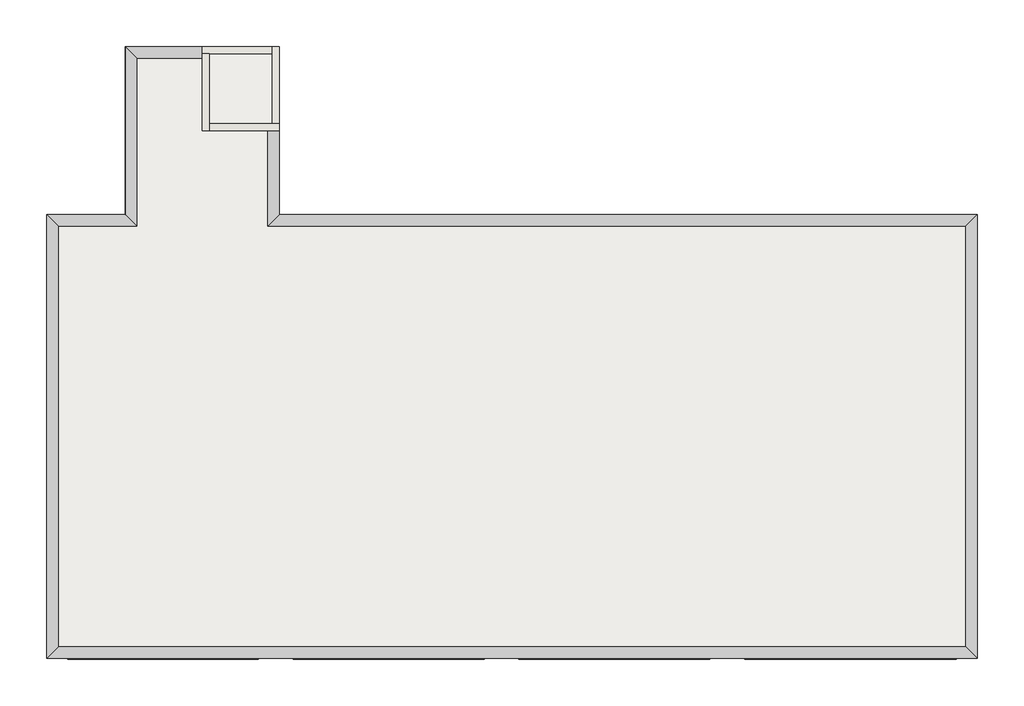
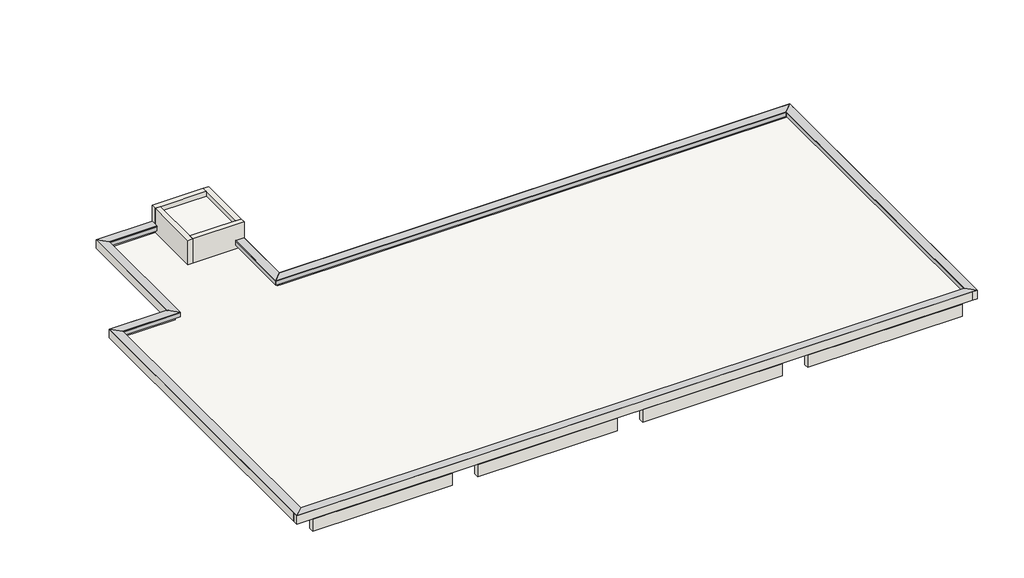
# One storey: 16 proxies, 16 walls, 2 slabs.
"""IFC4 building model written with IfcOpenShell, lengths in millimetres."""

import ifcopenshell
import ifcopenshell.guid

model = None  # the IFC model being written
_history = None  # IfcOwnerHistory: only IFC2X3 demands one
_inside = {}  # id of a spatial element -> (the spatial element, [elements in it])
_under = {}  # id of a project, library or spatial element -> (it, [spatial elements below it])
_declared = {}  # id of a project -> (the project, [libraries it declares])
_typed = {}  # id of a type object -> (the type object, [elements of that type])
_made_of = {}  # id of a material, layer set ... -> (it, [elements and type objects made of it])


def new_model(schema):
    """Start an empty IFC model of exactly this schema.

    Asked for "IFC4X3", IfcOpenShell would pick the latest addendum, in which some entities
    have other attributes; the version numbers below select the first issue.
    IFC2X3 requires an IfcOwnerHistory on every rooted entity: one is made here for all.
    """
    global model, _history
    if schema == "IFC4X3":
        model = ifcopenshell.file(schema_version=(4, 3, 0, 0))
    else:
        model = ifcopenshell.file(schema=schema)
    _inside.clear()
    _under.clear()
    _declared.clear()
    _typed.clear()
    _made_of.clear()
    _history = None
    if model.schema == "IFC2X3":
        org = make("IfcOrganization", Name="unknown")
        user = make(
            "IfcPersonAndOrganization",
            ThePerson=make("IfcPerson", FamilyName="unknown"),
            TheOrganization=org,
        )
        app = make(
            "IfcApplication",
            ApplicationDeveloper=org,
            Version="unknown",
            ApplicationFullName="unknown",
            ApplicationIdentifier="unknown",
        )
        _history = make(
            "IfcOwnerHistory",
            OwningUser=user,
            OwningApplication=app,
            ChangeAction="ADDED",
            CreationDate=0,
        )
    return model


def make(cls, **values):
    """One entity of the class cls with the attributes given. An attribute that is None is left unset."""
    return model.create_entity(
        cls, **{name: value for name, value in values.items() if value is not None}
    )


def rooted(cls, **values):
    """An entity with a GlobalId (a new one), such as an element, a storey or a relation."""
    return make(cls, GlobalId=ifcopenshell.guid.new(), OwnerHistory=_history, **values)


def si_unit(unit_type, name, prefix=None):
    """IfcSIUnit, for example si_unit("LENGTHUNIT", "METRE", prefix="MILLI")."""
    return make("IfcSIUnit", UnitType=unit_type, Prefix=prefix, Name=name)


def assignment(units):
    """IfcUnitAssignment: the units of a project."""
    return None if units is None else make("IfcUnitAssignment", Units=units)


def point(xyz):
    """IfcCartesianPoint."""
    return None if xyz is None else make("IfcCartesianPoint", Coordinates=xyz)


def direction(xyz):
    """IfcDirection."""
    return None if xyz is None else make("IfcDirection", DirectionRatios=xyz)


def frame(location, z_axis=None, x_axis=None):
    """IfcAxis2Placement3D, a coordinate frame: its origin and axes. An axis left out is left unset."""
    return make(
        "IfcAxis2Placement3D",
        Location=point(location),
        Axis=direction(z_axis),
        RefDirection=direction(x_axis),
    )


def origin():
    """The frame at (0, 0, 0) with its axes left unset."""
    return frame((0.0, 0.0, 0.0))


def place(relative_to, where):
    """IfcLocalPlacement: puts the frame where relative to a parent placement (None: the world)."""
    return make(
        "IfcLocalPlacement", PlacementRelTo=relative_to, RelativePlacement=where
    )


def context(
    kind, dimensions, precision=None, world=None, true_north=None, identifier=None
):
    """IfcGeometricRepresentationContext, for example the 3D "Model" context."""
    return make(
        "IfcGeometricRepresentationContext",
        ContextIdentifier=identifier,
        ContextType=kind,
        CoordinateSpaceDimension=dimensions,
        Precision=precision,
        WorldCoordinateSystem=world,
        TrueNorth=true_north,
    )


def project(units=None, contexts=None):
    """IfcProject with its units and contexts."""
    return rooted(
        "IfcProject",
        Name="project",
        RepresentationContexts=contexts,
        UnitsInContext=assignment(units),
    )


def spatial(cls, under=None, at=None, **own):
    """A site, building, storey or space (cls), placed at a placement, below another one or the project."""
    s = rooted(cls, ObjectPlacement=at, **own)
    if under is not None:
        _under.setdefault(under.id(), (under, []))[1].append(s)
    return s


def polyline(points):
    """IfcPolyline through the points."""
    return make("IfcPolyline", Points=[point(p) for p in points])


def outline(outer, holes=None, kind="AREA"):
    """IfcArbitraryClosedProfileDef: a profile drawn as a closed curve; with holes, ...WithVoids."""
    if holes is None:
        return make("IfcArbitraryClosedProfileDef", ProfileType=kind, OuterCurve=outer)
    return make(
        "IfcArbitraryProfileDefWithVoids",
        ProfileType=kind,
        OuterCurve=outer,
        InnerCurves=holes,
    )


def extrude(swept, where, along, depth):
    """IfcExtrudedAreaSolid: the profile swept, set in the frame where, extruded along a direction by depth."""
    return make(
        "IfcExtrudedAreaSolid",
        SweptArea=swept,
        Position=where,
        ExtrudedDirection=direction(along),
        Depth=depth,
    )


def faces_of(points, faces, orient=None, outer=None):
    """IfcFace entities. A face is a list of loops; a loop is a list of indices into points, from 0.

    orient and outer hold one flag for each loop. By default every Orientation is true, the
    first loop of a face is its IfcFaceOuterBound and the others are IfcFaceBound.
    """
    made = []
    for i, loops in enumerate(faces):
        bounds = []
        for j, loop in enumerate(loops):
            is_outer = j == 0 if outer is None else outer[i][j]
            bounds.append(
                make(
                    "IfcFaceOuterBound" if is_outer else "IfcFaceBound",
                    Bound=make("IfcPolyLoop", Polygon=[points[k] for k in loop]),
                    Orientation=True if orient is None else orient[i][j],
                )
            )
        made.append(make("IfcFace", Bounds=bounds))
    return made


def faceted_brep(points, faces, orient=None, outer=None, voids=None):
    """IfcFacetedBrep: a solid bounded by flat faces; with voids (closed shells), ...WithVoids."""
    shared = [point(p) for p in points]
    hull = make("IfcClosedShell", CfsFaces=faces_of(shared, faces, orient, outer))
    if voids is None:
        return make("IfcFacetedBrep", Outer=hull)
    return make(
        "IfcFacetedBrepWithVoids",
        Outer=hull,
        Voids=[
            make(cls, CfsFaces=faces_of(shared, fs, o, b)) for cls, fs, o, b in voids
        ],
    )


def shape(context_of_items, identifier, shape_type, items):
    """IfcShapeRepresentation: the items that make up one representation, for example the "Body"."""
    return make(
        "IfcShapeRepresentation",
        ContextOfItems=context_of_items,
        RepresentationIdentifier=identifier,
        RepresentationType=shape_type,
        Items=items,
    )


def made_of(thing, what):
    """Note that an element or type object is made of a material, layer set ...; save() writes the relation."""
    if what is not None:
        _made_of.setdefault(what.id(), (what, []))[1].append(thing)
    return thing


def element(
    cls,
    number,
    at=None,
    inside=None,
    cuts=None,
    type_object=None,
    material=None,
    context=None,
    identifier="Body",
    shape_type=None,
    held_by="IfcProductDefinitionShape",
    body=None,
    shapes=None,
    **own,
):
    """One element of the class cls, such as IfcWall. Its Tag is "e" and its number.

    at: its placement. inside: the storey or other place that contains it. cuts: it is an
    opening in that element (IfcRelVoidsElement). A single representation is given by context,
    identifier, shape_type and body (its items); several are given by shapes. held_by: the class
    of the entity that holds the representations. save() writes the other relations.
    """
    e = rooted(cls, Tag="e%d" % number, ObjectPlacement=at, **own)
    if body is not None:
        shapes = [shape(context, identifier, shape_type, body)]
    if shapes is not None:
        e.Representation = make(held_by, Representations=shapes)
    if inside is not None:
        _inside.setdefault(inside.id(), (inside, []))[1].append(e)
    if cuts is not None:
        rooted(
            "IfcRelVoidsElement", RelatingBuildingElement=cuts, RelatedOpeningElement=e
        )
    if type_object is not None:
        _typed.setdefault(type_object.id(), (type_object, []))[1].append(e)
    return made_of(e, material)


def aggregate(whole, parts):
    """IfcRelAggregates: a whole, such as a stair, and the parts it consists of."""
    return rooted("IfcRelAggregates", RelatingObject=whole, RelatedObjects=parts)


def save(model, path):
    """Write the relations noted so far, then the file.

    IfcRelAggregates (storeys below a building ...), IfcRelContainedInSpatialStructure (elements
    in a storey), IfcRelDefinesByType, IfcRelAssociatesMaterial and IfcRelDeclares: one each for
    every whole, place, type object, material and project.
    """
    for whole, parts in _under.values():
        aggregate(whole, parts)
    for where, things in _inside.values():
        rooted(
            "IfcRelContainedInSpatialStructure",
            RelatedElements=things,
            RelatingStructure=where,
        )
    for kind, things in _typed.values():
        rooted("IfcRelDefinesByType", RelatedObjects=things, RelatingType=kind)
    for what, things in _made_of.values():
        rooted("IfcRelAssociatesMaterial", RelatedObjects=things, RelatingMaterial=what)
    for by, libraries in _declared.values():
        rooted("IfcRelDeclares", RelatingContext=by, RelatedDefinitions=libraries)
    model.write(path)


model = new_model("IFC4")

# Units and contexts
model_context = context("Model", 3, world=origin())
ifc_project = project(units=[si_unit("LENGTHUNIT", "METRE", prefix="MILLI")], contexts=[model_context])

# Site, building, storey
site = spatial("IfcSite", under=ifc_project)
building = spatial("IfcBuilding", under=site)
storey = spatial("IfcBuildingStorey", under=building, Name="RSL", Elevation=13000.0)

# Proxies
placement = place(None, origin())
element("IfcBuildingElementProxy", 1, Name="Reveals", at=placement, inside=storey, context=model_context, shape_type="Brep", body=[
    faceted_brep([(-4958.7187246, -1750.1171638, 13320.0), (-4958.7187246, -1750.1171638, 13350.0), (-4628.7187246, -1750.1171638, 13350.0), (-4958.7187246, -4480.1171638, 13320.0), (-4628.7187246, -4150.1171638, 13350.0), (-4958.7187246, -4480.1171638, 13350.0)], [[[0, 1, 2]], [[3, 4, 5]], [[1, 0, 3, 5]], [[2, 1, 5, 4]], [[0, 2, 4, 3]]]),
])
element("IfcBuildingElementProxy", 2, Name="Wall Sweeps", at=placement, inside=storey, context=model_context, shape_type="Brep", body=[
    faceted_brep([(-4958.7187246, -1750.1171638, 13160.0), (-4958.7187246, -1750.1171638, 13320.0), (-4628.7187246, -1750.1171638, 13350.0), (-4828.7187246, -1750.1171638, 13160.0), (-4958.7187246, -4480.1171638, 13160.0), (-4828.7187246, -4350.1171638, 13160.0), (-4628.7187246, -4150.1171638, 13350.0), (-4958.7187246, -4480.1171638, 13320.0)], [[[0, 1, 2, 3]], [[4, 5, 6, 7]], [[1, 0, 4, 7]], [[2, 1, 7, 6]], [[3, 2, 6, 5]], [[0, 3, 5, 4]]]),
])
element("IfcBuildingElementProxy", 3, Name="Reveals", at=placement, inside=storey, context=model_context, shape_type="Brep", body=[
    faceted_brep([(-4958.7187246, -4480.1171638, 13320.0), (-4958.7187246, -4480.1171638, 13350.0), (-4628.7187246, -4150.1171638, 13350.0), (14991.2812754, -4480.1171638, 13320.0), (15321.2812754, -4150.1171638, 13350.0), (14991.2812754, -4480.1171638, 13350.0)], [[[0, 1, 2]], [[3, 4, 5]], [[1, 0, 3, 5]], [[2, 1, 5, 4]], [[0, 2, 4, 3]]]),
])
element("IfcBuildingElementProxy", 4, Name="Wall Sweeps", at=placement, inside=storey, context=model_context, shape_type="Brep", body=[
    faceted_brep([(-4958.7187246, -4480.1171638, 13160.0), (-4958.7187246, -4480.1171638, 13320.0), (-4628.7187246, -4150.1171638, 13350.0), (-4828.7187246, -4350.1171638, 13160.0), (14991.2812754, -4480.1171638, 13160.0), (15121.2812754, -4350.1171638, 13160.0), (15321.2812754, -4150.1171638, 13350.0), (14991.2812754, -4480.1171638, 13320.0)], [[[0, 1, 2, 3]], [[4, 5, 6, 7]], [[1, 0, 4, 7]], [[2, 1, 7, 6]], [[3, 2, 6, 5]], [[0, 3, 5, 4]]]),
])
element("IfcBuildingElementProxy", 5, Name="Reveals", at=placement, inside=storey, context=model_context, shape_type="Brep", body=[
    faceted_brep([(14991.2812754, -4480.1171638, 13320.0), (14991.2812754, -4480.1171638, 13350.0), (15321.2812754, -4150.1171638, 13350.0), (14991.2812754, -16520.1171638, 13320.0), (15321.2812754, -16850.1171638, 13350.0), (14991.2812754, -16520.1171638, 13350.0)], [[[0, 1, 2]], [[3, 4, 5]], [[1, 0, 3, 5]], [[2, 1, 5, 4]], [[0, 2, 4, 3]]]),
])
element("IfcBuildingElementProxy", 6, Name="Wall Sweeps", at=placement, inside=storey, context=model_context, shape_type="Brep", body=[
    faceted_brep([(14991.2812754, -4480.1171638, 13160.0), (14991.2812754, -4480.1171638, 13320.0), (15321.2812754, -4150.1171638, 13350.0), (15121.2812754, -4350.1171638, 13160.0), (14991.2812754, -16520.1171638, 13160.0), (15121.2812754, -16650.1171638, 13160.0), (15321.2812754, -16850.1171638, 13350.0), (14991.2812754, -16520.1171638, 13320.0)], [[[0, 1, 2, 3]], [[4, 5, 6, 7]], [[1, 0, 4, 7]], [[2, 1, 7, 6]], [[3, 2, 6, 5]], [[0, 3, 5, 4]]]),
])
element("IfcBuildingElementProxy", 7, Name="Reveals", at=placement, inside=storey, context=model_context, shape_type="Brep", body=[
    faceted_brep([(14991.2812754, -16520.1171638, 13320.0), (14991.2812754, -16520.1171638, 13350.0), (15321.2812754, -16850.1171638, 13350.0), (-10948.7187246, -16520.1171638, 13320.0), (-11278.7187246, -16850.1171638, 13350.0), (-10948.7187246, -16520.1171638, 13350.0)], [[[0, 1, 2]], [[3, 4, 5]], [[1, 0, 3, 5]], [[2, 1, 5, 4]], [[0, 2, 4, 3]]]),
])
element("IfcBuildingElementProxy", 8, Name="Wall Sweeps", at=placement, inside=storey, context=model_context, shape_type="Brep", body=[
    faceted_brep([(14991.2812754, -16520.1171638, 13160.0), (14991.2812754, -16520.1171638, 13320.0), (15321.2812754, -16850.1171638, 13350.0), (15121.2812754, -16650.1171638, 13160.0), (-10948.7187246, -16520.1171638, 13160.0), (-11078.7187246, -16650.1171638, 13160.0), (-11278.7187246, -16850.1171638, 13350.0), (-10948.7187246, -16520.1171638, 13320.0)], [[[0, 1, 2, 3]], [[4, 5, 6, 7]], [[1, 0, 4, 7]], [[2, 1, 7, 6]], [[3, 2, 6, 5]], [[0, 3, 5, 4]]]),
])
element("IfcBuildingElementProxy", 9, Name="Reveals", at=placement, inside=storey, context=model_context, shape_type="Brep", body=[
    faceted_brep([(-10948.7187246, -16520.1171638, 13320.0), (-10948.7187246, -16520.1171638, 13350.0), (-11278.7187246, -16850.1171638, 13350.0), (-10948.7187246, -4480.1171638, 13320.0), (-11278.7187246, -4150.1171638, 13350.0), (-10948.7187246, -4480.1171638, 13350.0)], [[[0, 1, 2]], [[3, 4, 5]], [[1, 0, 3, 5]], [[2, 1, 5, 4]], [[0, 2, 4, 3]]]),
])
element("IfcBuildingElementProxy", 10, Name="Wall Sweeps", at=placement, inside=storey, context=model_context, shape_type="Brep", body=[
    faceted_brep([(-10948.7187246, -16520.1171638, 13160.0), (-10948.7187246, -16520.1171638, 13320.0), (-11278.7187246, -16850.1171638, 13350.0), (-11078.7187246, -16650.1171638, 13160.0), (-10948.7187246, -4480.1171638, 13160.0), (-11078.7187246, -4350.1171638, 13160.0), (-11278.7187246, -4150.1171638, 13350.0), (-10948.7187246, -4480.1171638, 13320.0)], [[[0, 1, 2, 3]], [[4, 5, 6, 7]], [[1, 0, 4, 7]], [[2, 1, 7, 6]], [[3, 2, 6, 5]], [[0, 3, 5, 4]]]),
])
element("IfcBuildingElementProxy", 11, Name="Reveals", at=placement, inside=storey, context=model_context, shape_type="Brep", body=[
    faceted_brep([(-10948.7187246, -4480.1171638, 13320.0), (-10948.7187246, -4480.1171638, 13350.0), (-11278.7187246, -4150.1171638, 13350.0), (-8698.7187246, -4480.1171638, 13320.0), (-9028.7187246, -4150.1171638, 13350.0), (-8698.7187246, -4480.1171638, 13350.0)], [[[0, 1, 2]], [[3, 4, 5]], [[1, 0, 3, 5]], [[2, 1, 5, 4]], [[0, 2, 4, 3]]]),
])
element("IfcBuildingElementProxy", 12, Name="Wall Sweeps", at=placement, inside=storey, context=model_context, shape_type="Brep", body=[
    faceted_brep([(-10948.7187246, -4480.1171638, 13160.0), (-10948.7187246, -4480.1171638, 13320.0), (-11278.7187246, -4150.1171638, 13350.0), (-11078.7187246, -4350.1171638, 13160.0), (-8698.7187246, -4480.1171638, 13160.0), (-8828.7187246, -4350.1171638, 13160.0), (-9028.7187246, -4150.1171638, 13350.0), (-8698.7187246, -4480.1171638, 13320.0)], [[[0, 1, 2, 3]], [[4, 5, 6, 7]], [[1, 0, 4, 7]], [[2, 1, 7, 6]], [[3, 2, 6, 5]], [[0, 3, 5, 4]]]),
])
element("IfcBuildingElementProxy", 13, Name="Reveals", at=placement, inside=storey, context=model_context, shape_type="Brep", body=[
    faceted_brep([(-8698.7187246, -4480.1171638, 13320.0), (-8698.7187246, -4480.1171638, 13350.0), (-9028.7187246, -4150.1171638, 13350.0), (-8698.7187246, 319.8828362, 13320.0), (-9028.7187246, 649.8828362, 13350.0), (-8698.7187246, 319.8828362, 13350.0)], [[[0, 1, 2]], [[3, 4, 5]], [[1, 0, 3, 5]], [[2, 1, 5, 4]], [[0, 2, 4, 3]]]),
])
element("IfcBuildingElementProxy", 14, Name="Wall Sweeps", at=placement, inside=storey, context=model_context, shape_type="Brep", body=[
    faceted_brep([(-8698.7187246, -4480.1171638, 13160.0), (-8698.7187246, -4480.1171638, 13320.0), (-9028.7187246, -4150.1171638, 13350.0), (-8828.7187246, -4350.1171638, 13160.0), (-8698.7187246, 319.8828362, 13160.0), (-8828.7187246, 449.8828362, 13160.0), (-9028.7187246, 649.8828362, 13350.0), (-8698.7187246, 319.8828362, 13320.0)], [[[0, 1, 2, 3]], [[4, 5, 6, 7]], [[1, 0, 4, 7]], [[2, 1, 7, 6]], [[3, 2, 6, 5]], [[0, 3, 5, 4]]]),
])
element("IfcBuildingElementProxy", 15, Name="Reveals", at=placement, inside=storey, context=model_context, shape_type="Brep", body=[
    faceted_brep([(-8698.7187246, 319.8828362, 13320.0), (-8698.7187246, 319.8828362, 13350.0), (-9028.7187246, 649.8828362, 13350.0), (-6828.7187246, 319.8828362, 13320.0), (-6828.7187246, 649.8828362, 13350.0), (-6828.7187246, 319.8828362, 13350.0)], [[[0, 1, 2]], [[3, 4, 5]], [[1, 0, 3, 5]], [[2, 1, 5, 4]], [[0, 2, 4, 3]]]),
])
element("IfcBuildingElementProxy", 16, Name="Wall Sweeps", at=placement, inside=storey, context=model_context, shape_type="Brep", body=[
    faceted_brep([(-8698.7187246, 319.8828362, 13160.0), (-8698.7187246, 319.8828362, 13320.0), (-9028.7187246, 649.8828362, 13350.0), (-8828.7187246, 449.8828362, 13160.0), (-6828.7187246, 319.8828362, 13160.0), (-6828.7187246, 449.8828362, 13160.0), (-6828.7187246, 649.8828362, 13350.0), (-6828.7187246, 319.8828362, 13320.0)], [[[0, 1, 2, 3]], [[4, 5, 6, 7]], [[1, 0, 4, 7]], [[2, 1, 7, 6]], [[3, 2, 6, 5]], [[0, 3, 5, 4]]]),
])

# Slabs
element("IfcSlab", 17, ObjectType="RC150", at=placement, inside=storey, context=model_context, shape_type="Brep", body=[
    faceted_brep([(-4818.7187246, 459.8828362, 13650.0), (-4818.7187246, -1550.1171638, 13650.0), (-4818.7187246, -1560.1171638, 13650.0), (-6628.7187246, -1560.1171638, 13650.0), (-6638.7187246, -1560.1171638, 13650.0), (-6638.7187246, 449.8828362, 13650.0), (-6638.7187246, 459.8828362, 13650.0), (-4828.7187246, 459.8828362, 13650.0), (-4818.7187246, 459.8828362, 13800.0), (-4828.7187246, 459.8828362, 13800.0), (-6638.7187246, 459.8828362, 13800.0), (-6638.7187246, 449.8828362, 13800.0), (-6638.7187246, -1560.1171638, 13800.0), (-6628.7187246, -1560.1171638, 13800.0), (-4818.7187246, -1560.1171638, 13800.0), (-4818.7187246, -1550.1171638, 13800.0)], [[[0, 1, 2, 3, 4, 5, 6, 7]], [[8, 9, 10, 11, 12, 13, 14, 15]], [[2, 1, 0, 8, 15, 14]], [[4, 3, 2, 14, 13, 12]], [[6, 5, 4, 12, 11, 10]], [[0, 7, 6, 10, 9, 8]]]),
])
element("IfcSlab", 18, ObjectType="RC150", at=placement, inside=storey, context=model_context, shape_type="SweptSolid", body=[
    extrude(outline(polyline([(15121.2812754, -4350.1171638), (15121.2812754, -16650.1171638), (-11078.7187246, -16650.1171638), (-11078.7187246, -4350.1171638), (-8828.7187246, -4350.1171638), (-8828.7187246, 449.8828362), (-6818.7187246, 449.8828362), (-6818.7187246, -1740.1171638), (-4828.7187246, -1740.1171638), (-4828.7187246, -4350.1171638), (15121.2812754, -4350.1171638)])), frame((0.0, 0.0, 12850.0), z_axis=(0.0, 0.0, 1.0), x_axis=(1.0, 0.0, 0.0)), (0.0, 0.0, 1.0), 150.0),
])

# Walls
element("IfcWall", 19, ObjectType="(R)RC200", at=placement, inside=storey, context=model_context, shape_type="SweptSolid", body=[
    extrude(outline(polyline([(-5228.7187246, -16870.1171638), (-10678.7187246, -16870.1171638), (-10678.7187246, -16670.1171638), (-5228.7187246, -16670.1171638), (-5228.7187246, -16870.1171638)])), frame((0.0, 0.0, 12500.0), z_axis=(0.0, 0.0, 1.0), x_axis=(1.0, 0.0, 0.0)), (0.0, 0.0, 1.0), 500.0),
])
element("IfcWall", 20, ObjectType="(R)RC200", at=placement, inside=storey, context=model_context, shape_type="SweptSolid", body=[
    extrude(outline(polyline([(1221.2812754, -16870.1171638), (-4228.7187246, -16870.1171638), (-4228.7187246, -16670.1171638), (1221.2812754, -16670.1171638), (1221.2812754, -16870.1171638)])), frame((0.0, 0.0, 12500.0), z_axis=(0.0, 0.0, 1.0), x_axis=(1.0, 0.0, 0.0)), (0.0, 0.0, 1.0), 500.0),
])
element("IfcWall", 21, ObjectType="(R)RC200", at=placement, inside=storey, context=model_context, shape_type="SweptSolid", body=[
    extrude(outline(polyline([(7671.2812754, -16870.1171638), (2221.2812754, -16870.1171638), (2221.2812754, -16670.1171638), (7671.2812754, -16670.1171638), (7671.2812754, -16870.1171638)])), frame((0.0, 0.0, 12500.0), z_axis=(0.0, 0.0, 1.0), x_axis=(1.0, 0.0, 0.0)), (0.0, 0.0, 1.0), 500.0),
])
element("IfcWall", 22, ObjectType="(R)RC200", at=placement, inside=storey, context=model_context, shape_type="SweptSolid", body=[
    extrude(outline(polyline([(14721.2812754, -16870.1171638), (8671.2812754, -16870.1171638), (8671.2812754, -16670.1171638), (14721.2812754, -16670.1171638), (14721.2812754, -16870.1171638)])), frame((0.0, 0.0, 12500.0), z_axis=(0.0, 0.0, 1.0), x_axis=(1.0, 0.0, 0.0)), (0.0, 0.0, 1.0), 500.0),
])
element("IfcWall", 23, ObjectType="(R)RC200", at=placement, inside=storey, context=model_context, shape_type="Brep", body=[
    faceted_brep([(-6828.7187246, 449.8828362, 13000.0), (-6628.7187246, 449.8828362, 13000.0), (-4828.7187246, 449.8828362, 13000.0), (-4828.7187246, 449.8828362, 13650.0), (-6628.7187246, 449.8828362, 13650.0), (-6638.7187246, 449.8828362, 13650.0), (-6638.7187246, 449.8828362, 13800.0), (-6628.7187246, 449.8828362, 13800.0), (-4828.7187246, 449.8828362, 13800.0), (-4828.7187246, 449.8828362, 14000.0), (-6628.7187246, 449.8828362, 14000.0), (-6828.7187246, 449.8828362, 14000.0), (-4828.7187246, 649.8828362, 13000.0), (-6828.7187246, 649.8828362, 13000.0), (-6828.7187246, 649.8828362, 14000.0), (-4828.7187246, 649.8828362, 14000.0), (-4828.7187246, 459.8828362, 13800.0), (-4828.7187246, 459.8828362, 13650.0), (-6638.7187246, 459.8828362, 13650.0), (-6638.7187246, 459.8828362, 13800.0)], [[[0, 1, 2, 3, 4, 5, 6, 7, 8, 9, 10, 11]], [[12, 13, 14, 15]], [[2, 1, 0, 13, 12]], [[11, 10, 9, 15, 14]], [[2, 12, 15, 9, 8, 16, 17, 3]], [[11, 14, 13, 0]], [[17, 18, 5, 4, 3]], [[6, 19, 16, 8, 7]], [[18, 19, 6, 5]], [[19, 18, 17, 16]]]),
])
element("IfcWall", 24, ObjectType="(R)RC200", at=placement, inside=storey, context=model_context, shape_type="Brep", body=[
    faceted_brep([(-6628.7187246, -1750.1171638, 13000.0), (-6628.7187246, -1550.1171638, 13000.0), (-6628.7187246, 449.8828362, 13000.0), (-6628.7187246, 449.8828362, 13650.0), (-6628.7187246, -1550.1171638, 13650.0), (-6628.7187246, -1560.1171638, 13650.0), (-6628.7187246, -1560.1171638, 13800.0), (-6628.7187246, -1550.1171638, 13800.0), (-6628.7187246, 449.8828362, 13800.0), (-6628.7187246, 449.8828362, 14000.0), (-6628.7187246, -1550.1171638, 14000.0), (-6628.7187246, -1750.1171638, 14000.0), (-6828.7187246, 449.8828362, 13000.0), (-6828.7187246, -1750.1171638, 13000.0), (-6828.7187246, -1750.1171638, 14000.0), (-6828.7187246, 449.8828362, 14000.0), (-6638.7187246, 449.8828362, 13800.0), (-6638.7187246, 449.8828362, 13650.0), (-6638.7187246, -1560.1171638, 13650.0), (-6638.7187246, -1560.1171638, 13800.0)], [[[0, 1, 2, 3, 4, 5, 6, 7, 8, 9, 10, 11]], [[12, 13, 14, 15]], [[2, 1, 0, 13, 12]], [[11, 10, 9, 15, 14]], [[0, 11, 14, 13]], [[2, 12, 15, 9, 8, 16, 17, 3]], [[17, 18, 5, 4, 3]], [[6, 19, 16, 8, 7]], [[18, 19, 6, 5]], [[19, 18, 17, 16]]]),
])
element("IfcWall", 25, ObjectType="(R)RC200", at=placement, inside=storey, context=model_context, shape_type="Brep", body=[
    faceted_brep([(-4628.7187246, -1550.1171638, 13000.0), (-4828.7187246, -1550.1171638, 13000.0), (-6628.7187246, -1550.1171638, 13000.0), (-6628.7187246, -1550.1171638, 13650.0), (-4828.7187246, -1550.1171638, 13650.0), (-4818.7187246, -1550.1171638, 13650.0), (-4818.7187246, -1550.1171638, 13800.0), (-4828.7187246, -1550.1171638, 13800.0), (-6628.7187246, -1550.1171638, 13800.0), (-6628.7187246, -1550.1171638, 14000.0), (-4828.7187246, -1550.1171638, 14000.0), (-4628.7187246, -1550.1171638, 14000.0), (-6628.7187246, -1750.1171638, 13000.0), (-4828.7187246, -1750.1171638, 13000.0), (-4628.7187246, -1750.1171638, 13000.0), (-4628.7187246, -1750.1171638, 13350.0), (-4628.7187246, -1750.1171638, 14000.0), (-6628.7187246, -1750.1171638, 14000.0), (-6628.7187246, -1560.1171638, 13800.0), (-6628.7187246, -1560.1171638, 13650.0), (-4818.7187246, -1560.1171638, 13650.0), (-4818.7187246, -1560.1171638, 13800.0)], [[[0, 1, 2, 3, 4, 5, 6, 7, 8, 9, 10, 11]], [[12, 13, 14, 15, 16, 17]], [[2, 1, 0, 14, 13, 12]], [[11, 10, 9, 17, 16]], [[2, 12, 17, 9, 8, 18, 19, 3]], [[11, 16, 15, 14, 0]], [[19, 20, 5, 4, 3]], [[6, 21, 18, 8, 7]], [[20, 21, 6, 5]], [[21, 20, 19, 18]]]),
])
element("IfcWall", 26, ObjectType="(R)RC200", at=placement, inside=storey, context=model_context, shape_type="Brep", body=[
    faceted_brep([(-4828.7187246, 649.8828362, 13000.0), (-4828.7187246, 449.8828362, 13000.0), (-4828.7187246, -1550.1171638, 13000.0), (-4828.7187246, -1550.1171638, 13650.0), (-4828.7187246, 449.8828362, 13650.0), (-4828.7187246, 459.8828362, 13650.0), (-4828.7187246, 459.8828362, 13800.0), (-4828.7187246, 449.8828362, 13800.0), (-4828.7187246, -1550.1171638, 13800.0), (-4828.7187246, -1550.1171638, 14000.0), (-4828.7187246, 449.8828362, 14000.0), (-4828.7187246, 649.8828362, 14000.0), (-4628.7187246, -1550.1171638, 13000.0), (-4628.7187246, 649.8828362, 13000.0), (-4628.7187246, 649.8828362, 14000.0), (-4628.7187246, -1550.1171638, 14000.0), (-4818.7187246, -1550.1171638, 13800.0), (-4818.7187246, -1550.1171638, 13650.0), (-4818.7187246, 459.8828362, 13650.0), (-4818.7187246, 459.8828362, 13800.0)], [[[0, 1, 2, 3, 4, 5, 6, 7, 8, 9, 10, 11]], [[12, 13, 14, 15]], [[2, 1, 0, 13, 12]], [[11, 10, 9, 15, 14]], [[0, 11, 14, 13]], [[2, 12, 15, 9, 8, 16, 17, 3]], [[18, 5, 4, 3, 17]], [[19, 16, 8, 7, 6]], [[19, 18, 17, 16]], [[18, 19, 6, 5]]]),
])
element("IfcWall", 27, ObjectType="パラペット200 アゴ", at=placement, inside=storey, context=model_context, shape_type="Brep", body=[
    faceted_brep([(-4828.7187246, -1750.1171638, 13000.0), (-4828.7187246, -4350.1171638, 13000.0), (-4828.7187246, -4350.1171638, 13160.0), (-4828.7187246, -1750.1171638, 13160.0), (-4628.7187246, -4350.1171638, 13000.0), (-4628.7187246, -4150.1171638, 13000.0), (-4628.7187246, -1750.1171638, 13000.0), (-4628.7187246, -1750.1171638, 13350.0), (-4628.7187246, -4150.1171638, 13350.0), (-4628.7187246, -4350.1171638, 13160.0)], [[[0, 1, 2, 3]], [[4, 5, 6, 7, 8, 9]], [[1, 0, 6, 5, 4]], [[2, 8, 7, 3]], [[7, 6, 0, 3]], [[1, 4, 9, 2]], [[8, 2, 9]]]),
])
element("IfcWall", 28, ObjectType="パラペット200 アゴ", at=placement, inside=storey, context=model_context, shape_type="Brep", body=[
    faceted_brep([(-4628.7187246, -4350.1171638, 13000.0), (15121.2812754, -4350.1171638, 13000.0), (15321.2812754, -4350.1171638, 13000.0), (15321.2812754, -4350.1171638, 13350.0), (15121.2812754, -4350.1171638, 13160.0), (-4628.7187246, -4350.1171638, 13160.0), (15321.2812754, -4150.1171638, 13000.0), (-4628.7187246, -4150.1171638, 13000.0), (-4628.7187246, -4150.1171638, 13350.0), (15321.2812754, -4150.1171638, 13350.0)], [[[0, 1, 2, 3, 4, 5]], [[6, 7, 8, 9]], [[2, 1, 0, 7, 6]], [[4, 9, 8, 5]], [[8, 7, 0, 5]], [[3, 2, 6, 9]], [[9, 4, 3]]]),
])
element("IfcWall", 29, ObjectType="パラペット200 アゴ", at=placement, inside=storey, context=model_context, shape_type="Brep", body=[
    faceted_brep([(15121.2812754, -4350.1171638, 13000.0), (15121.2812754, -16650.1171638, 13000.0), (15121.2812754, -16850.1171638, 13000.0), (15121.2812754, -16850.1171638, 13350.0), (15121.2812754, -16650.1171638, 13160.0), (15121.2812754, -4350.1171638, 13160.0), (15321.2812754, -16850.1171638, 13000.0), (15321.2812754, -4350.1171638, 13000.0), (15321.2812754, -4350.1171638, 13350.0), (15321.2812754, -16850.1171638, 13350.0)], [[[0, 1, 2, 3, 4, 5]], [[6, 7, 8, 9]], [[2, 1, 0, 7, 6]], [[4, 9, 8, 5]], [[8, 7, 0, 5]], [[3, 2, 6, 9]], [[9, 4, 3]]]),
])
element("IfcWall", 30, ObjectType="パラペット200 アゴ", at=placement, inside=storey, context=model_context, shape_type="Brep", body=[
    faceted_brep([(15121.2812754, -16650.1171638, 13000.0), (-11078.7187246, -16650.1171638, 13000.0), (-11278.7187246, -16650.1171638, 13000.0), (-11278.7187246, -16650.1171638, 13350.0), (-11078.7187246, -16650.1171638, 13160.0), (15121.2812754, -16650.1171638, 13160.0), (-11278.7187246, -16850.1171638, 13000.0), (15121.2812754, -16850.1171638, 13000.0), (15121.2812754, -16850.1171638, 13350.0), (-11278.7187246, -16850.1171638, 13350.0)], [[[0, 1, 2, 3, 4, 5]], [[6, 7, 8, 9]], [[2, 1, 0, 7, 6]], [[4, 9, 8, 5]], [[8, 7, 0, 5]], [[3, 2, 6, 9]], [[9, 4, 3]]]),
])
element("IfcWall", 31, ObjectType="パラペット200 アゴ", at=placement, inside=storey, context=model_context, shape_type="Brep", body=[
    faceted_brep([(-11078.7187246, -16650.1171638, 13000.0), (-11078.7187246, -4350.1171638, 13000.0), (-11078.7187246, -4150.1171638, 13000.0), (-11078.7187246, -4150.1171638, 13350.0), (-11078.7187246, -4350.1171638, 13160.0), (-11078.7187246, -16650.1171638, 13160.0), (-11278.7187246, -4150.1171638, 13000.0), (-11278.7187246, -16650.1171638, 13000.0), (-11278.7187246, -16650.1171638, 13350.0), (-11278.7187246, -4150.1171638, 13350.0)], [[[0, 1, 2, 3, 4, 5]], [[6, 7, 8, 9]], [[2, 1, 0, 7, 6]], [[4, 9, 8, 5]], [[8, 7, 0, 5]], [[3, 2, 6, 9]], [[9, 4, 3]]]),
])
element("IfcWall", 32, ObjectType="パラペット200 アゴ", at=placement, inside=storey, context=model_context, shape_type="Brep", body=[
    faceted_brep([(-11078.7187246, -4350.1171638, 13000.0), (-8828.7187246, -4350.1171638, 13000.0), (-8828.7187246, -4350.1171638, 13160.0), (-11078.7187246, -4350.1171638, 13160.0), (-8828.7187246, -4150.1171638, 13000.0), (-9028.7187246, -4150.1171638, 13000.0), (-11078.7187246, -4150.1171638, 13000.0), (-11078.7187246, -4150.1171638, 13350.0), (-9028.7187246, -4150.1171638, 13350.0), (-8828.7187246, -4150.1171638, 13160.0)], [[[0, 1, 2, 3]], [[4, 5, 6, 7, 8, 9]], [[1, 0, 6, 5, 4]], [[2, 8, 7, 3]], [[7, 6, 0, 3]], [[1, 4, 9, 2]], [[8, 2, 9]]]),
])
element("IfcWall", 33, ObjectType="パラペット200 アゴ", at=placement, inside=storey, context=model_context, shape_type="Brep", body=[
    faceted_brep([(-8828.7187246, -4150.1171638, 13000.0), (-8828.7187246, 449.8828362, 13000.0), (-8828.7187246, 649.8828362, 13000.0), (-8828.7187246, 649.8828362, 13350.0), (-8828.7187246, 449.8828362, 13160.0), (-8828.7187246, -4150.1171638, 13160.0), (-9028.7187246, 649.8828362, 13000.0), (-9028.7187246, -4150.1171638, 13000.0), (-9028.7187246, -4150.1171638, 13350.0), (-9028.7187246, 649.8828362, 13350.0)], [[[0, 1, 2, 3, 4, 5]], [[6, 7, 8, 9]], [[2, 1, 0, 7, 6]], [[4, 9, 8, 5]], [[8, 7, 0, 5]], [[3, 2, 6, 9]], [[9, 4, 3]]]),
])
element("IfcWall", 34, ObjectType="パラペット200 アゴ", at=placement, inside=storey, context=model_context, shape_type="SweptSolid", body=[
    extrude(outline(polyline([(649.8828362, 13350.0), (649.8828362, 13000.0), (449.8828362, 13000.0), (449.8828362, 13160.0), (649.8828362, 13350.0)])), frame((-8828.7187246, 0.0, 0.0), z_axis=(1.0, 0.0, 0.0), x_axis=(0.0, 1.0, 0.0)), (0.0, 0.0, 1.0), 2000.0),
])

save(model, "model.ifc")
